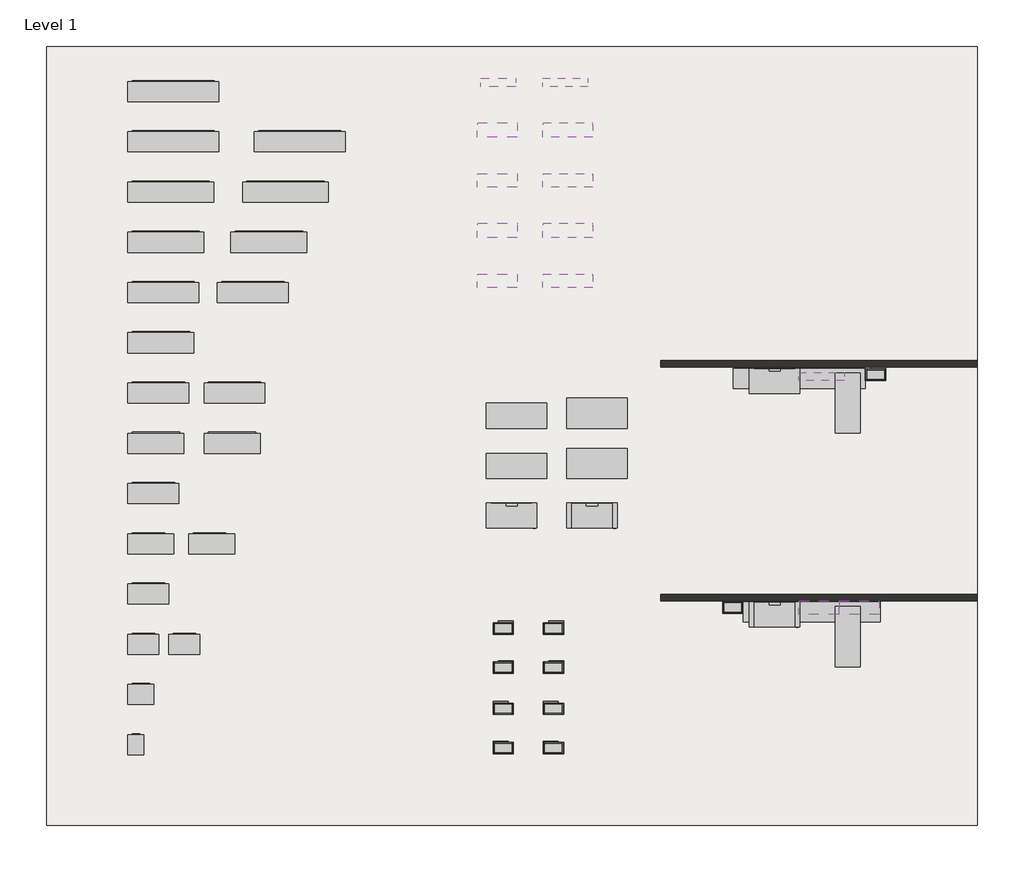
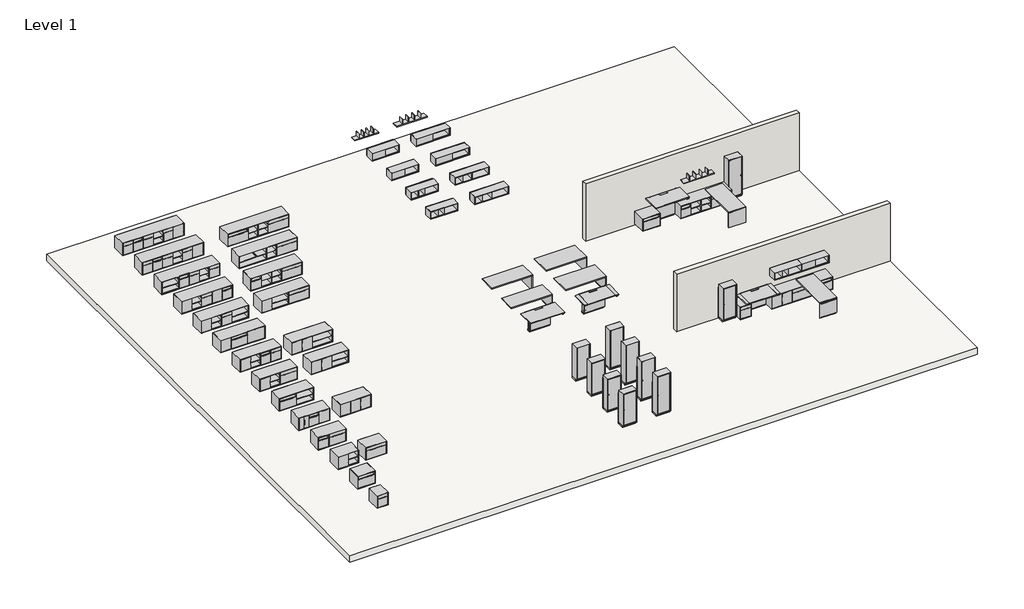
# One storey: 59 furniture elements, 2 walls, 1 slab.
"""IFC4 building model written with IfcOpenShell, lengths in millimetres."""

from ifc_helpers import new_model, si_unit, frame, origin, origin_with_axes, place, context, project, spatial, polyline, outline, extrude, transform, mapped, element, save
from components import furniture_e8b98096, furniture_93a4c50f, furniture_e7ff067c, furniture_ccd57bb4, furniture_aad45bf9, furniture_e53a78da, furniture_f5ed6201, furniture_7c4e28b5, furniture_2f4b90cd, furniture_f450b1d9, furniture_3a8b5d28, furniture_b63b5e25, furniture_d7054f50, furniture_59a5bb71, furniture_35edd451, furniture_0a99ca76, furniture_ef6a9de1, furniture_91a3ec11, furniture_1c651b8b, furniture_ece272e2, furniture_d45eaf3e, furniture_81ee7984, furniture_8cc410aa, furniture_50cba423, open_overhead_a7a5bcfd, open_overhead_0c16e00b, open_overhead_374be3c5, open_overhead_a36c8625, open_overhead_884717f9, sliding_overhead_8f52506d, sliding_overhead_03807ef4, sliding_overhead_bb38e065, sliding_overhead_68c2a225, sliding_overhead_ab71ba96, furniture_f6369be6, furniture_0787831a, furniture_d379338e, furniture_07fac1e9, furniture_4a333a7b, furniture_a4ef0c74, furniture_7742d33f, furniture_94937b59, workstation_adjustable_worksurface_a07f1c97, workstation_adjustable_worksurface_3895cc66, workstation_adjustable_w_leather_insert_b50b38ab, workstation_adjustable_w_leather_insert_ceb2d98d, furniture_50e25504, furniture_fd948a2c, furniture_fd5d923a, furniture_1631e02c

model = new_model("IFC4")

# Units and contexts
model_context = context("Model", 3, world=origin())
ifc_project = project(units=[si_unit("LENGTHUNIT", "METRE", prefix="MILLI")], contexts=[model_context])

# Site, building, storey
site = spatial("IfcSite", under=ifc_project)
building = spatial("IfcBuilding", under=site)
storey = spatial("IfcBuildingStorey", under=building, Name="Level 1", Elevation=0.0)

# Furniture
placement = place(None, origin())
furniture_shape = furniture_e8b98096(model_context)
element("IfcFurniture", 1, ObjectType="Bookshelf_W Dividers : 42\" L", at=placement, inside=storey, context=model_context, shape_type="MappedRepresentation", body=[
    mapped(furniture_shape, transform((11698.499427, 20065.0434927, 0.0), x_axis=(1.0, 0.0, 0.0), y_axis=(0.0, 1.0, 0.0), z_axis=(0.0, 0.0, 1.0))),
])
furniture_2_shape = furniture_93a4c50f(model_context)
element("IfcFurniture", 2, ObjectType="Bookshelf_W Dividers : 54\" L", at=placement, inside=storey, context=model_context, shape_type="MappedRepresentation", body=[
    mapped(furniture_2_shape, transform((13578.099427, 20065.0434927, 0.0), x_axis=(1.0, 0.0, 0.0), y_axis=(0.0, 1.0, 0.0), z_axis=(0.0, 0.0, 1.0))),
])
element("IfcFurniture", 3, ObjectType="Bookshelf_W Dividers : 54\" L", at=placement, inside=storey, context=model_context, shape_type="MappedRepresentation", body=[
    mapped(furniture_2_shape, transform((21344.4572401, 11148.0559927, 0.0), x_axis=(1.0, 0.0, 0.0), y_axis=(0.0, 1.0, 0.0), z_axis=(0.0, 0.0, 1.0))),
])
furniture_3_shape = furniture_e7ff067c(model_context)
element("IfcFurniture", 4, ObjectType="Credenza_Combined : Credenza_102 3/8\" W", at=placement, inside=storey, context=model_context, shape_type="MappedRepresentation", body=[
    mapped(furniture_3_shape, transform((1005.2492202, 16564.2519256, 0.0), x_axis=(1.0, 0.0, 0.0), y_axis=(0.0, 1.0, 0.0), z_axis=(0.0, 0.0, 1.0))),
])
furniture_4_shape = furniture_ccd57bb4(model_context)
element("IfcFurniture", 5, ObjectType="Credenza_Combined : Credenza_102 3/8\" W", at=placement, inside=storey, context=model_context, shape_type="MappedRepresentation", body=[
    mapped(furniture_4_shape, transform((4485.0492202, 16564.2519256, 0.0), x_axis=(1.0, 0.0, 0.0), y_axis=(0.0, 1.0, 0.0), z_axis=(0.0, 0.0, 1.0))),
])
furniture_5_shape = furniture_aad45bf9(model_context)
element("IfcFurniture", 6, ObjectType="Credenza_Combined : Credenza_108 3/8\" W", at=placement, inside=storey, context=model_context, shape_type="MappedRepresentation", body=[
    mapped(furniture_5_shape, transform((21067.5969193, 3828.0934927, 0.0), x_axis=(1.0, 0.0, 0.0), y_axis=(0.0, 1.0, 0.0), z_axis=(0.0, 0.0, 1.0))),
])
furniture_6_shape = furniture_e53a78da(model_context)
element("IfcFurniture", 7, ObjectType="Credenza_Combined : Credenza_108 3/8\" W", at=placement, inside=storey, context=model_context, shape_type="MappedRepresentation", body=[
    mapped(furniture_6_shape, transform((1005.2492202, 18088.2519256, 0.0), x_axis=(1.0, 0.0, 0.0), y_axis=(0.0, 1.0, 0.0), z_axis=(0.0, 0.0, 1.0))),
])
element("IfcFurniture", 8, ObjectType="Credenza_Combined : Credenza_108 3/8\" W", at=placement, inside=storey, context=model_context, shape_type="MappedRepresentation", body=[
    mapped(furniture_6_shape, transform((1005.2492202, 19612.2519256, 0.0), x_axis=(1.0, 0.0, 0.0), y_axis=(0.0, 1.0, 0.0), z_axis=(0.0, 0.0, 1.0))),
])
furniture_7_shape = furniture_f5ed6201(model_context)
element("IfcFurniture", 9, ObjectType="Credenza_Combined : Credenza_108 3/8\" W", at=placement, inside=storey, context=model_context, shape_type="MappedRepresentation", body=[
    mapped(furniture_7_shape, transform((4840.6492202, 18088.2519256, 0.0), x_axis=(1.0, 0.0, 0.0), y_axis=(0.0, 1.0, 0.0), z_axis=(0.0, 0.0, 1.0))),
])
furniture_8_shape = furniture_7c4e28b5(model_context)
element("IfcFurniture", 10, ObjectType="Credenza_Combined : Credenza_19 3/16\" W", at=placement, inside=storey, context=model_context, shape_type="MappedRepresentation", body=[
    mapped(furniture_8_shape, transform((19665.8344193, 3828.0934927, 0.0), x_axis=(1.0, 0.0, 0.0), y_axis=(0.0, 1.0, 0.0), z_axis=(0.0, 0.0, 1.0))),
])
element("IfcFurniture", 11, ObjectType="Credenza_Combined : Credenza_19 3/16\" W", at=placement, inside=storey, context=model_context, shape_type="MappedRepresentation", body=[
    mapped(furniture_8_shape, transform((1005.2492202, -199.7480744, 0.0), x_axis=(1.0, 0.0, 0.0), y_axis=(0.0, 1.0, 0.0), z_axis=(0.0, 0.0, 1.0))),
])
furniture_9_shape = furniture_2f4b90cd(model_context)
element("IfcFurniture", 12, ObjectType="Credenza_Combined : Credenza_31 1/16\"", at=placement, inside=storey, context=model_context, shape_type="MappedRepresentation", body=[
    mapped(furniture_9_shape, transform((1005.2492202, 1324.2519256, 0.0), x_axis=(1.0, 0.0, 0.0), y_axis=(0.0, 1.0, 0.0), z_axis=(0.0, 0.0, 1.0))),
])
element("IfcFurniture", 13, ObjectType="Credenza_Combined : Credenza_31 1/16\"", at=placement, inside=storey, context=model_context, shape_type="MappedRepresentation", body=[
    mapped(furniture_9_shape, transform((19364.2094193, 10914.6934927, 0.0), x_axis=(1.0, 0.0, 0.0), y_axis=(0.0, 1.0, 0.0), z_axis=(0.0, 0.0, 1.0))),
])
furniture_10_shape = furniture_f450b1d9(model_context)
element("IfcFurniture", 14, ObjectType="Credenza_Combined : Credenza_37\" W", at=placement, inside=storey, context=model_context, shape_type="MappedRepresentation", body=[
    mapped(furniture_10_shape, transform((1005.2492202, 2848.2519256, 0.0), x_axis=(1.0, 0.0, 0.0), y_axis=(0.0, 1.0, 0.0), z_axis=(0.0, 0.0, 1.0))),
])
furniture_11_shape = furniture_3a8b5d28(model_context)
element("IfcFurniture", 15, ObjectType="Credenza_Combined : Credenza_37\" W", at=placement, inside=storey, context=model_context, shape_type="MappedRepresentation", body=[
    mapped(furniture_11_shape, transform((2249.8492202, 2848.2519256, 0.0), x_axis=(1.0, 0.0, 0.0), y_axis=(0.0, 1.0, 0.0), z_axis=(0.0, 0.0, 1.0))),
])
furniture_12_shape = furniture_b63b5e25(model_context)
element("IfcFurniture", 16, ObjectType="Credenza_Combined : Credenza_48 7/8\" W", at=placement, inside=storey, context=model_context, shape_type="MappedRepresentation", body=[
    mapped(furniture_12_shape, transform((1005.2492202, 4372.2519256, 0.0), x_axis=(1.0, 0.0, 0.0), y_axis=(0.0, 1.0, 0.0), z_axis=(0.0, 0.0, 1.0))),
])
furniture_13_shape = furniture_d7054f50(model_context)
element("IfcFurniture", 17, ObjectType="Credenza_Combined : Credenza_54 13/16\" W", at=placement, inside=storey, context=model_context, shape_type="MappedRepresentation", body=[
    mapped(furniture_13_shape, transform((1005.2492202, 5896.2519256, 0.0), x_axis=(1.0, 0.0, 0.0), y_axis=(0.0, 1.0, 0.0), z_axis=(0.0, 0.0, 1.0))),
])
furniture_14_shape = furniture_59a5bb71(model_context)
element("IfcFurniture", 18, ObjectType="Credenza_Combined : Credenza_54 13/16\" W", at=placement, inside=storey, context=model_context, shape_type="MappedRepresentation", body=[
    mapped(furniture_14_shape, transform((2859.4492202, 5896.2519256, 0.0), x_axis=(1.0, 0.0, 0.0), y_axis=(0.0, 1.0, 0.0), z_axis=(0.0, 0.0, 1.0))),
])
furniture_15_shape = furniture_35edd451(model_context)
element("IfcFurniture", 19, ObjectType="Credenza_Combined : Credenza_60 13/16\" W", at=placement, inside=storey, context=model_context, shape_type="MappedRepresentation", body=[
    mapped(furniture_15_shape, transform((1005.2492202, 7420.2519256, 0.0), x_axis=(1.0, 0.0, 0.0), y_axis=(0.0, 1.0, 0.0), z_axis=(0.0, 0.0, 1.0))),
])
furniture_16_shape = furniture_0a99ca76(model_context)
element("IfcFurniture", 20, ObjectType="Credenza_Combined : Credenza_66 3/4\" W", at=placement, inside=storey, context=model_context, shape_type="MappedRepresentation", body=[
    mapped(furniture_16_shape, transform((1005.2492202, 8944.2519256, 0.0), x_axis=(1.0, 0.0, 0.0), y_axis=(0.0, 1.0, 0.0), z_axis=(0.0, 0.0, 1.0))),
])
furniture_17_shape = furniture_ef6a9de1(model_context)
element("IfcFurniture", 21, ObjectType="Credenza_Combined : Credenza_66 3/4\" W", at=placement, inside=storey, context=model_context, shape_type="MappedRepresentation", body=[
    mapped(furniture_17_shape, transform((3316.6492202, 8944.2519256, 0.0), x_axis=(1.0, 0.0, 0.0), y_axis=(0.0, 1.0, 0.0), z_axis=(0.0, 0.0, 1.0))),
])
furniture_18_shape = furniture_91a3ec11(model_context)
element("IfcFurniture", 22, ObjectType="Credenza_Combined : Credenza_72 11/16\" W", at=placement, inside=storey, context=model_context, shape_type="MappedRepresentation", body=[
    mapped(furniture_18_shape, transform((1005.2492202, 10468.2519256, 0.0), x_axis=(1.0, 0.0, 0.0), y_axis=(0.0, 1.0, 0.0), z_axis=(0.0, 0.0, 1.0))),
])
furniture_19_shape = furniture_1c651b8b(model_context)
element("IfcFurniture", 23, ObjectType="Credenza_Combined : Credenza_72 11/16\" W", at=placement, inside=storey, context=model_context, shape_type="MappedRepresentation", body=[
    mapped(furniture_19_shape, transform((3316.6492202, 10468.2519256, 0.0), x_axis=(1.0, 0.0, 0.0), y_axis=(0.0, 1.0, 0.0), z_axis=(0.0, 0.0, 1.0))),
])
furniture_20_shape = furniture_ece272e2(model_context)
element("IfcFurniture", 24, ObjectType="Credenza_Combined : Credenza_78 5/8\" W", at=placement, inside=storey, context=model_context, shape_type="MappedRepresentation", body=[
    mapped(furniture_20_shape, transform((1005.2492202, 11992.2519256, 0.0), x_axis=(1.0, 0.0, 0.0), y_axis=(0.0, 1.0, 0.0), z_axis=(0.0, 0.0, 1.0))),
])
furniture_21_shape = furniture_d45eaf3e(model_context)
element("IfcFurniture", 25, ObjectType="Credenza_Combined : Credenza_84 9/16\" W", at=placement, inside=storey, context=model_context, shape_type="MappedRepresentation", body=[
    mapped(furniture_21_shape, transform((1005.2492202, 13516.2519256, 0.0), x_axis=(1.0, 0.0, 0.0), y_axis=(0.0, 1.0, 0.0), z_axis=(0.0, 0.0, 1.0))),
])
furniture_22_shape = furniture_81ee7984(model_context)
element("IfcFurniture", 26, ObjectType="Credenza_Combined : Credenza_84 9/16\" W", at=placement, inside=storey, context=model_context, shape_type="MappedRepresentation", body=[
    mapped(furniture_22_shape, transform((3723.0492202, 13516.2519256, 0.0), x_axis=(1.0, 0.0, 0.0), y_axis=(0.0, 1.0, 0.0), z_axis=(0.0, 0.0, 1.0))),
])
furniture_23_shape = furniture_8cc410aa(model_context)
element("IfcFurniture", 27, ObjectType="Credenza_Combined : Credenza_90 1/2\" W", at=placement, inside=storey, context=model_context, shape_type="MappedRepresentation", body=[
    mapped(furniture_23_shape, transform((1005.2492202, 15040.2519256, 0.0), x_axis=(1.0, 0.0, 0.0), y_axis=(0.0, 1.0, 0.0), z_axis=(0.0, 0.0, 1.0))),
])
furniture_24_shape = furniture_50cba423(model_context)
element("IfcFurniture", 28, ObjectType="Credenza_Combined : Credenza_90 1/2\" W", at=placement, inside=storey, context=model_context, shape_type="MappedRepresentation", body=[
    mapped(furniture_24_shape, transform((4129.4492202, 15040.2519256, 0.0), x_axis=(1.0, 0.0, 0.0), y_axis=(0.0, 1.0, 0.0), z_axis=(0.0, 0.0, 1.0))),
])
element("IfcFurniture", 29, ObjectType="Credenza_Combined : Credenza_90 1/2\" W", at=placement, inside=storey, context=model_context, shape_type="MappedRepresentation", body=[
    mapped(furniture_24_shape, transform((21067.5969193, 10914.6934927, 0.0), x_axis=(1.0, 0.0, 0.0), y_axis=(0.0, 1.0, 0.0), z_axis=(0.0, 0.0, 1.0))),
])
open_overhead_shape = open_overhead_a7a5bcfd(model_context)
element("IfcFurniture", 30, ObjectType="Open Overhead : 1 1/4\" Backpanel - 48\" W", at=placement, inside=storey, context=model_context, shape_type="MappedRepresentation", body=[
    mapped(open_overhead_shape, transform((21344.4572401, 4061.4559927, 0.0), x_axis=(1.0, 0.0, 0.0), y_axis=(0.0, 1.0, 0.0), z_axis=(0.0, 0.0, 1.0))),
])
open_overhead_2_shape = open_overhead_0c16e00b(model_context)
element("IfcFurniture", 31, ObjectType="Open Overhead : 1 1/4\" Backpanel - 60\" W", at=placement, inside=storey, context=model_context, shape_type="MappedRepresentation", body=[
    mapped(open_overhead_2_shape, transform((13578.099427, 13969.0434927, 0.0), x_axis=(1.0, 0.0, 0.0), y_axis=(0.0, 1.0, 0.0), z_axis=(0.0, 0.0, 1.0))),
])
open_overhead_3_shape = open_overhead_374be3c5(model_context)
element("IfcFurniture", 32, ObjectType="Open Overhead : 2 3/8\" Backpanel - 60\" W", at=placement, inside=storey, context=model_context, shape_type="MappedRepresentation", body=[
    mapped(open_overhead_3_shape, transform((13578.099427, 15493.0434927, 0.0), x_axis=(1.0, 0.0, 0.0), y_axis=(0.0, 1.0, 0.0), z_axis=(0.0, 0.0, 1.0))),
])
open_overhead_4_shape = open_overhead_a36c8625(model_context)
element("IfcFurniture", 33, ObjectType="Open Overhead : 1 1/4\" Backpanel - 48\" W", at=placement, inside=storey, context=model_context, shape_type="MappedRepresentation", body=[
    mapped(open_overhead_4_shape, transform((11596.899427, 13969.0434927, 0.0), x_axis=(1.0, 0.0, 0.0), y_axis=(0.0, 1.0, 0.0), z_axis=(0.0, 0.0, 1.0))),
])
open_overhead_5_shape = open_overhead_884717f9(model_context)
element("IfcFurniture", 34, ObjectType="Open Overhead : 2 3/8\" Backpanel - 48\" W", at=placement, inside=storey, context=model_context, shape_type="MappedRepresentation", body=[
    mapped(open_overhead_5_shape, transform((11596.899427, 15493.0434927, 0.0), x_axis=(1.0, 0.0, 0.0), y_axis=(0.0, 1.0, 0.0), z_axis=(0.0, 0.0, 1.0))),
])
sliding_overhead_shape = sliding_overhead_8f52506d(model_context)
element("IfcFurniture", 35, ObjectType="Sliding Overhead : 1 1/4\" Backpanel - 48\" W", at=placement, inside=storey, context=model_context, shape_type="MappedRepresentation", body=[
    mapped(sliding_overhead_shape, transform((22563.6572401, 4061.4559927, 0.0), x_axis=(1.0, 0.0, 0.0), y_axis=(0.0, 1.0, 0.0), z_axis=(0.0, 0.0, 1.0))),
])
sliding_overhead_2_shape = sliding_overhead_03807ef4(model_context)
element("IfcFurniture", 36, ObjectType="Sliding Overhead : 1 1/4\" Backpanel - 60\" W", at=placement, inside=storey, context=model_context, shape_type="MappedRepresentation", body=[
    mapped(sliding_overhead_2_shape, transform((13578.099427, 17017.0434927, 0.0), x_axis=(1.0, 0.0, 0.0), y_axis=(0.0, 1.0, 0.0), z_axis=(0.0, 0.0, 1.0))),
])
sliding_overhead_3_shape = sliding_overhead_bb38e065(model_context)
element("IfcFurniture", 37, ObjectType="Sliding Overhead : 2 3/8\" Backpanel - 60\" W", at=placement, inside=storey, context=model_context, shape_type="MappedRepresentation", body=[
    mapped(sliding_overhead_3_shape, transform((13578.099427, 18541.0434927, 0.0), x_axis=(1.0, 0.0, 0.0), y_axis=(0.0, 1.0, 0.0), z_axis=(0.0, 0.0, 1.0))),
])
sliding_overhead_4_shape = sliding_overhead_68c2a225(model_context)
element("IfcFurniture", 38, ObjectType="Sliding Overhead : 2 3/8\" Backpanel - 48\" W", at=placement, inside=storey, context=model_context, shape_type="MappedRepresentation", body=[
    mapped(sliding_overhead_4_shape, transform((11596.899427, 18541.0434927, 0.0), x_axis=(1.0, 0.0, 0.0), y_axis=(0.0, 1.0, 0.0), z_axis=(0.0, 0.0, 1.0))),
])
sliding_overhead_5_shape = sliding_overhead_ab71ba96(model_context)
element("IfcFurniture", 39, ObjectType="Sliding Overhead : 1 1/4\" Backpanel - 48\" W", at=placement, inside=storey, context=model_context, shape_type="MappedRepresentation", body=[
    mapped(sliding_overhead_5_shape, transform((11596.899427, 17017.0434927, 0.0), x_axis=(1.0, 0.0, 0.0), y_axis=(0.0, 1.0, 0.0), z_axis=(0.0, 0.0, 1.0))),
])
furniture_25_shape = furniture_f6369be6(model_context)
element("IfcFurniture", 40, ObjectType="Wardrobe : Left - 1 1/4\" Base 60\" H", at=placement, inside=storey, context=model_context, shape_type="MappedRepresentation", body=[
    mapped(furniture_25_shape, transform((12384.4492202, 206.6519256, 0.0), x_axis=(1.0, 0.0, 0.0), y_axis=(0.0, 1.0, 0.0), z_axis=(0.0, 0.0, 1.0))),
])
element("IfcFurniture", 41, ObjectType="Wardrobe : Left - 1 1/4\" Base 60\" H", at=placement, inside=storey, context=model_context, shape_type="MappedRepresentation", body=[
    mapped(furniture_25_shape, transform((19339.3524117, 4469.4434927, 0.0), x_axis=(1.0, 0.0, 0.0), y_axis=(0.0, 1.0, 0.0), z_axis=(0.0, 0.0, 1.0))),
])
furniture_26_shape = furniture_0787831a(model_context)
element("IfcFurniture", 42, ObjectType="Wardrobe : Left - 1 1/4\" Base 72\" H", at=placement, inside=storey, context=model_context, shape_type="MappedRepresentation", body=[
    mapped(furniture_26_shape, transform((13908.4492202, 206.6519256, 0.0), x_axis=(1.0, 0.0, 0.0), y_axis=(0.0, 1.0, 0.0), z_axis=(0.0, 0.0, 1.0))),
])
furniture_27_shape = furniture_d379338e(model_context)
element("IfcFurniture", 43, ObjectType="Wardrobe : Left - 2 3/8\" Base 60\" H", at=placement, inside=storey, context=model_context, shape_type="MappedRepresentation", body=[
    mapped(furniture_27_shape, transform((12384.4492202, 1425.8519256, 0.0), x_axis=(1.0, 0.0, 0.0), y_axis=(0.0, 1.0, 0.0), z_axis=(0.0, 0.0, 1.0))),
])
furniture_28_shape = furniture_07fac1e9(model_context)
element("IfcFurniture", 44, ObjectType="Wardrobe : Left - 2 3/8\" Base 72\" H", at=placement, inside=storey, context=model_context, shape_type="MappedRepresentation", body=[
    mapped(furniture_28_shape, transform((13908.4492202, 1425.8519256, 0.0), x_axis=(1.0, 0.0, 0.0), y_axis=(0.0, 1.0, 0.0), z_axis=(0.0, 0.0, 1.0))),
])
furniture_29_shape = furniture_4a333a7b(model_context)
element("IfcFurniture", 45, ObjectType="Wardrobe : Right - 1 1/4\" Base 60\" H", at=placement, inside=storey, context=model_context, shape_type="MappedRepresentation", body=[
    mapped(furniture_29_shape, transform((12384.4492202, 2645.0519256, 0.0), x_axis=(1.0, 0.0, 0.0), y_axis=(0.0, 1.0, 0.0), z_axis=(0.0, 0.0, 1.0))),
])
furniture_30_shape = furniture_a4ef0c74(model_context)
element("IfcFurniture", 46, ObjectType="Wardrobe : Right - 1 1/4\" Base 72\" H", at=placement, inside=storey, context=model_context, shape_type="MappedRepresentation", body=[
    mapped(furniture_30_shape, transform((13908.4492202, 2645.0519256, 0.0), x_axis=(1.0, 0.0, 0.0), y_axis=(0.0, 1.0, 0.0), z_axis=(0.0, 0.0, 1.0))),
])
furniture_31_shape = furniture_7742d33f(model_context)
element("IfcFurniture", 47, ObjectType="Wardrobe : Right - 2 3/8\" Base 60\" H", at=placement, inside=storey, context=model_context, shape_type="MappedRepresentation", body=[
    mapped(furniture_31_shape, transform((12384.4492202, 3864.2519256, 0.0), x_axis=(1.0, 0.0, 0.0), y_axis=(0.0, 1.0, 0.0), z_axis=(0.0, 0.0, 1.0))),
])
furniture_32_shape = furniture_94937b59(model_context)
element("IfcFurniture", 48, ObjectType="Wardrobe : Right - 2 3/8\" Base 72\" H", at=placement, inside=storey, context=model_context, shape_type="MappedRepresentation", body=[
    mapped(furniture_32_shape, transform((13908.4492202, 3864.2519256, 0.0), x_axis=(1.0, 0.0, 0.0), y_axis=(0.0, 1.0, 0.0), z_axis=(0.0, 0.0, 1.0))),
])
element("IfcFurniture", 49, ObjectType="Wardrobe : Right - 2 3/8\" Base 72\" H", at=placement, inside=storey, context=model_context, shape_type="MappedRepresentation", body=[
    mapped(furniture_32_shape, transform((23671.0969193, 11556.0434927, 0.0), x_axis=(1.0, 0.0, 0.0), y_axis=(0.0, 1.0, 0.0), z_axis=(0.0, 0.0, 1.0))),
])
workstation_adjustable_worksurface_shape = workstation_adjustable_worksurface_a07f1c97(model_context)
element("IfcFurniture", 50, ObjectType="Workstation_Adjustable : Worksurface", at=placement, inside=storey, context=model_context, shape_type="MappedRepresentation", body=[
    mapped(workstation_adjustable_worksurface_shape, transform((12638.299427, 7439.9311763, 0.0), x_axis=(1.0, 0.0, 0.0), y_axis=(0.0, 1.0, 0.0), z_axis=(0.0, 0.0, 1.0))),
])
workstation_adjustable_worksurface_2_shape = workstation_adjustable_worksurface_3895cc66(model_context)
element("IfcFurniture", 51, ObjectType="Workstation_Adjustable : Worksurface", at=placement, inside=storey, context=model_context, shape_type="MappedRepresentation", body=[
    mapped(workstation_adjustable_worksurface_2_shape, transform((20610.3969193, 11527.2939181, 0.0), x_axis=(1.0, 0.0, 0.0), y_axis=(0.0, 1.0, 0.0), z_axis=(0.0, 0.0, 1.0))),
])
workstation_adjustable_w_leather_insert_shape = workstation_adjustable_w_leather_insert_b50b38ab(model_context)
element("IfcFurniture", 52, ObjectType="Workstation_Adjustable : w/ Leather Insert", at=placement, inside=storey, context=model_context, shape_type="MappedRepresentation", body=[
    mapped(workstation_adjustable_w_leather_insert_shape, transform((20610.3969193, 4440.6939181, 0.0), x_axis=(1.0, 0.0, 0.0), y_axis=(0.0, 1.0, 0.0), z_axis=(0.0, 0.0, 1.0))),
])
workstation_adjustable_w_leather_insert_2_shape = workstation_adjustable_w_leather_insert_ceb2d98d(model_context)
element("IfcFurniture", 53, ObjectType="Workstation_Adjustable : w/ Leather Insert", at=placement, inside=storey, context=model_context, shape_type="MappedRepresentation", body=[
    mapped(workstation_adjustable_w_leather_insert_2_shape, transform((15076.699427, 7439.9311763, 0.0), x_axis=(1.0, 0.0, 0.0), y_axis=(0.0, 1.0, 0.0), z_axis=(0.0, 0.0, 1.0))),
])
furniture_33_shape = furniture_50e25504(model_context)
element("IfcFurniture", 54, ObjectType="Worksurface_Fixed : Glass Leg - 30\" D", at=placement, inside=storey, context=model_context, shape_type="MappedRepresentation", body=[
    mapped(furniture_33_shape, transform((11876.299427, 8177.8434927, 0.0), x_axis=(1.0, 0.0, 0.0), y_axis=(0.0, 1.0, 0.0), z_axis=(0.0, 0.0, 1.0))),
])
element("IfcFurniture", 55, ObjectType="Worksurface_Fixed : Glass Leg - 30\" D", at=placement, inside=storey, context=model_context, shape_type="MappedRepresentation", body=[
    mapped(furniture_33_shape, transform((22450.3094193, 4296.557165, 0.0), x_axis=(0.0, -1.0, 0.0), y_axis=(1.0, 0.0, 0.0), z_axis=(0.0, 0.0, 1.0))),
])
furniture_34_shape = furniture_fd948a2c(model_context)
element("IfcFurniture", 56, ObjectType="Worksurface_Fixed : Glass Leg - 36\" D", at=placement, inside=storey, context=model_context, shape_type="MappedRepresentation", body=[
    mapped(furniture_34_shape, transform((14314.699427, 8177.8434927, 0.0), x_axis=(1.0, 0.0, 0.0), y_axis=(0.0, 1.0, 0.0), z_axis=(0.0, 0.0, 1.0))),
])
furniture_35_shape = furniture_fd5d923a(model_context)
element("IfcFurniture", 57, ObjectType="Worksurface_Fixed : Leg - 30\" D", at=placement, inside=storey, context=model_context, shape_type="MappedRepresentation", body=[
    mapped(furniture_35_shape, transform((11876.299427, 9701.8434927, 0.0), x_axis=(1.0, 0.0, 0.0), y_axis=(0.0, 1.0, 0.0), z_axis=(0.0, 0.0, 1.0))),
])
element("IfcFurniture", 58, ObjectType="Worksurface_Fixed : Leg - 30\" D", at=placement, inside=storey, context=model_context, shape_type="MappedRepresentation", body=[
    mapped(furniture_35_shape, transform((22450.3094193, 11383.157165, 0.0), x_axis=(0.0, -1.0, 0.0), y_axis=(1.0, 0.0, 0.0), z_axis=(0.0, 0.0, 1.0))),
])
furniture_36_shape = furniture_1631e02c(model_context)
element("IfcFurniture", 59, ObjectType="Worksurface_Fixed : Leg - 36\" D", at=placement, inside=storey, context=model_context, shape_type="MappedRepresentation", body=[
    mapped(furniture_36_shape, transform((14314.699427, 9701.8434927, 0.0), x_axis=(1.0, 0.0, 0.0), y_axis=(0.0, 1.0, 0.0), z_axis=(0.0, 0.0, 1.0))),
])

# Slab
element("IfcSlab", 60, ObjectType="Floor 1", at=placement, inside=storey, context=model_context, shape_type="SweptSolid", body=[
    extrude(outline(polyline([(26760.699427, 21284.2434927), (26760.699427, -2337.7565073), (-1458.700573, -2337.7565073), (-1458.700573, 21284.2434927), (26760.699427, 21284.2434927)])), frame((0.0, 0.0, -304.8), z_axis=(0.0, 0.0, 1.0), x_axis=(1.0, 0.0, 0.0)), (0.0, 0.0, 1.0), 304.8),
])

# Walls
element("IfcWall", 61, ObjectType="Wall 1", at=placement, inside=storey, context=model_context, shape_type="SweptSolid", body=[
    extrude(outline(polyline([(26760.699427, 4469.4434927), (17159.499427, 4469.4434927), (17159.499427, 4672.6434927), (26760.699427, 4672.6434927), (26760.699427, 4469.4434927)])), origin_with_axes(), (0.0, 0.0, 1.0), 2743.2),
])
element("IfcWall", 62, ObjectType="Wall 1", at=placement, inside=storey, context=model_context, shape_type="SweptSolid", body=[
    extrude(outline(polyline([(26760.699427, 11556.0434927), (17159.499427, 11556.0434927), (17159.499427, 11759.2434927), (26760.699427, 11759.2434927), (26760.699427, 11556.0434927)])), origin_with_axes(), (0.0, 0.0, 1.0), 2743.2),
])

save(model, "model.ifc")
